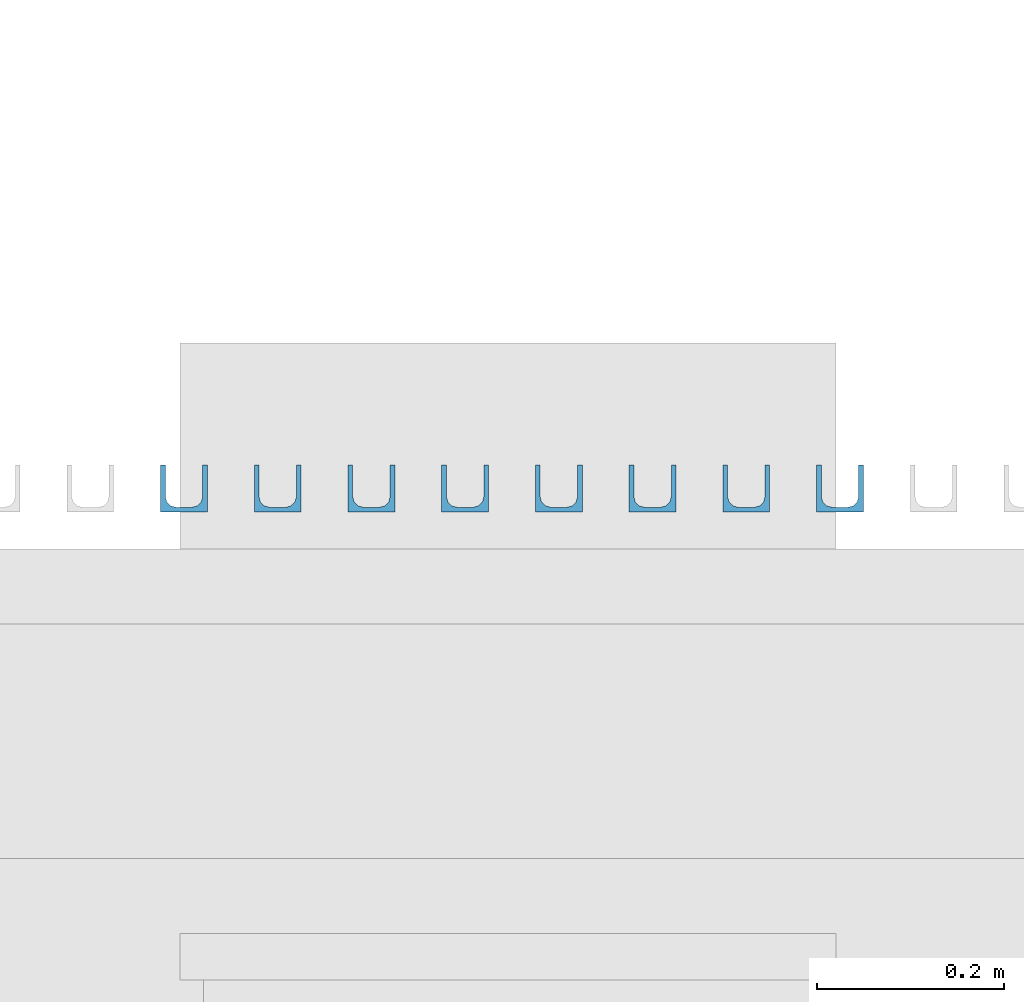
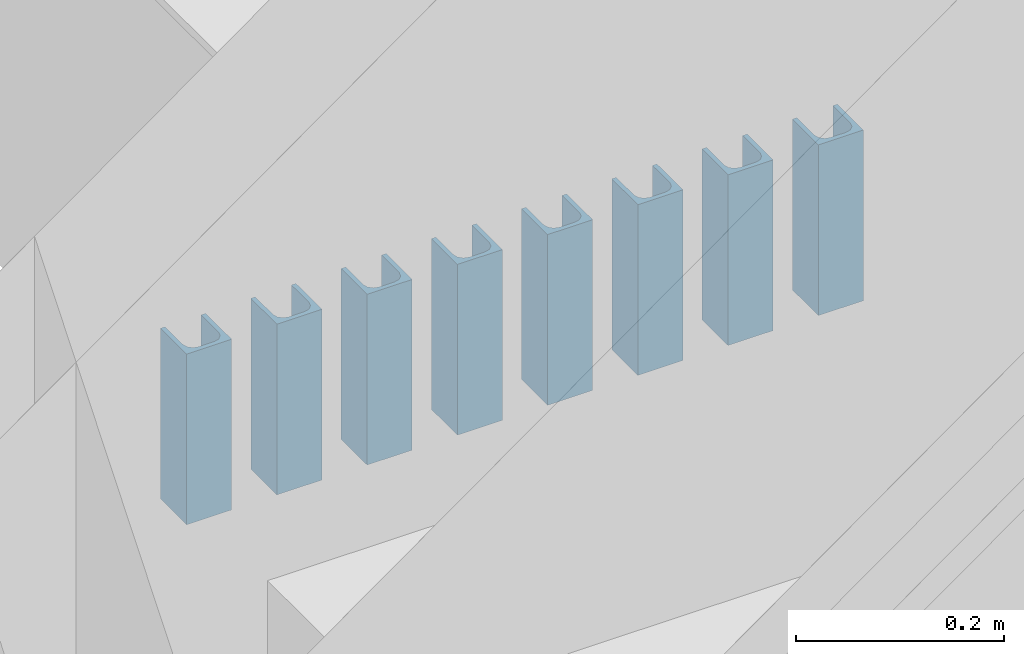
# One storey, part 50 of 100: 8 discrete accessories.
"""IFC2X3 building model written with IfcOpenShell, lengths in millimetres."""

from ifc_helpers import new_model, entity, si_unit, converted_unit, derived_unit, money_unit, direction, frame, origin_with_axes, place, context, subcontext, project, spatial, faceted_brep, source, transform, mapped, material, type_object, element, save


model = new_model("IFC2X3")

# Units and contexts
model_context = context("Model", 3, precision=0.01, world=origin_with_axes(), true_north=direction((0.0, 1.0)))
body_context = subcontext(model_context, "Body", "Model", "MODEL_VIEW")
ifc_project = project(units=[si_unit("LENGTHUNIT", "METRE", prefix="MILLI"), si_unit("AREAUNIT", "SQUARE_METRE"), si_unit("VOLUMEUNIT", "CUBIC_METRE"), converted_unit("PLANEANGLEUNIT", "DEGREE", entity("IfcPlaneAngleMeasure", 0.0174532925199), si_unit("PLANEANGLEUNIT", "RADIAN"), dimensions=[0, 0, 0, 0, 0, 0, 0]), si_unit("SOLIDANGLEUNIT", "STERADIAN"), money_unit("EUR"), converted_unit("TIMEUNIT", "Year", entity("IfcTimeMeasure", 31556926.0), si_unit("TIMEUNIT", "SECOND"), dimensions=[0, 0, 1, 0, 0, 0, 0]), si_unit("MASSUNIT", "GRAM", prefix="KILO"), si_unit("THERMODYNAMICTEMPERATUREUNIT", "DEGREE_CELSIUS"), si_unit("LUMINOUSINTENSITYUNIT", "LUMEN"), si_unit("ENERGYUNIT", "JOULE", prefix="MEGA"), derived_unit("THERMALCONDUCTANCEUNIT", [(si_unit("POWERUNIT", "WATT"), 1), (si_unit("LENGTHUNIT", "METRE"), -1), (si_unit("THERMODYNAMICTEMPERATUREUNIT", "KELVIN"), -1)]), derived_unit("SPECIFICHEATCAPACITYUNIT", [(si_unit("ENERGYUNIT", "JOULE"), 1), (si_unit("MASSUNIT", "GRAM", prefix="KILO"), -1), (si_unit("THERMODYNAMICTEMPERATUREUNIT", "KELVIN"), -1)]), derived_unit("MASSDENSITYUNIT", [(si_unit("MASSUNIT", "GRAM", prefix="KILO"), 1), (si_unit("VOLUMEUNIT", "CUBIC_METRE"), -1)])], contexts=[model_context])

# Site, building, storey
site_placement = place(None, origin_with_axes())
site = spatial("IfcSite", under=ifc_project, at=site_placement, Name="Politse- ja Piirivalveameti ning Päästeameti ühishoone", CompositionType="ELEMENT")
building_placement = place(site_placement, origin_with_axes())
building = spatial("IfcBuilding", under=site, at=building_placement, Name="Politse- ja Piirivalveameti ning Päästeameti ühishoone", CompositionType="ELEMENT")
storey_placement = place(building_placement, frame((0.0, 0.0, 3800.0), z_axis=(0.0, 0.0, 1.0), x_axis=(1.0, 0.0, 0.0)))
storey = spatial("IfcBuildingStorey", under=building, at=storey_placement, Name="Teine korrus", CompositionType="ELEMENT", Elevation=3800.0)

# Discrete accessories
ifc_material = material(Name="ET-05_Teras")
discrete_accessory_type = type_object("IfcDiscreteAccessoryType", Name="UAP Column 23")
shared_shape = source(origin_with_axes(), body_context, "Body", "Brep", [
    faceted_brep([(-25.0, -25.0, 0.0), (-25.0, -25.0, 200.000049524), (-25.0, -20.0, 200.000049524), (-25.0, -20.0, 0.0), (25.0, -25.0, 0.0), (25.0, -25.0, 200.000049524), (25.0, 25.0, 200.000049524), (-25.0, 25.0, 200.000049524), (-25.0, 20.0, 200.000049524), (8.5, 20.0, 200.000049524), (14.25, 18.4592921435, 200.000049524), (18.4592921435, 14.25, 200.000049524), (20.0, 8.5, 200.000049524), (20.0, -8.5, 200.000049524), (18.4592921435, -14.25, 200.000049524), (14.25, -18.4592921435, 200.000049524), (8.5, -20.0, 200.000049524), (8.5, -20.0, 0.0), (14.25, -18.4592921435, 0.0), (18.4592921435, -14.25, 0.0), (20.0, -8.5, 0.0), (20.0, 8.5, 0.0), (18.4592921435, 14.25, 0.0), (14.25, 18.4592921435, 0.0), (8.5, 20.0, 0.0), (-25.0, 20.0, 0.0), (-25.0, 25.0, 0.0), (25.0, 25.0, 0.0)], [[[0, 1, 2, 3]], [[4, 5, 1, 0]], [[1, 5, 6, 7, 8, 9, 10, 11, 12, 13, 14, 15, 16, 2]], [[3, 2, 16, 17]], [[0, 3, 17, 18, 19, 20, 21, 22, 23, 24, 25, 26, 27, 4]], [[27, 6, 5, 4]], [[26, 7, 6, 27]], [[25, 8, 7, 26]], [[24, 9, 8, 25]], [[23, 10, 9, 24]], [[22, 11, 10, 23]], [[21, 12, 11, 22]], [[20, 13, 12, 21]], [[19, 14, 13, 20]], [[18, 15, 14, 19]], [[17, 16, 15, 18]]]),
])
for number, where, z_axis, x_axis in (
    (1, (57957.0169791, 21574.5963246, 2600.0), (0.0, 0.0, 1.0), (1.30049800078e-07, -1.0, 0.0)),
    (2, (57857.0169791, 21574.5963116, 2600.0), (0.0, 0.0, 1.0), (1.30049800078e-07, -1.0, 0.0)),
    (3, (57757.0169791, 21574.5962986, 2600.0), (0.0, 0.0, 1.0), (1.30049800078e-07, -1.0, 0.0)),
    (4, (58257.0169791, 21574.5963246, 2600.0), (0.0, 0.0, 1.0), (1.30049800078e-07, -1.0, 0.0)),
    (5, (58157.0169791, 21574.5963116, 2600.0), (0.0, 0.0, 1.0), (1.30049800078e-07, -1.0, 0.0)),
    (6, (58057.0169791, 21574.5962986, 2600.0), (0.0, 0.0, 1.0), (1.30049800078e-07, -1.0, 0.0)),
    (7, (58457.0169791, 21574.5963116, 2600.0), (0.0, 0.0, 1.0), (1.30049800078e-07, -1.0, 0.0)),
    (8, (58357.0169791, 21574.5962986, 2600.0), (0.0, 0.0, 1.0), (1.30049800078e-07, -1.0, 0.0)),
):
    element("IfcDiscreteAccessory", number, at=place(storey_placement, frame(where, z_axis=z_axis, x_axis=x_axis)), inside=storey, type_object=discrete_accessory_type, material=ifc_material, Name="Fassaadiribid", context=body_context, shape_type="MappedRepresentation", body=[
        mapped(shared_shape, transform((0.0, 0.0, 0.0))),
    ])

save(model, "model.ifc")
